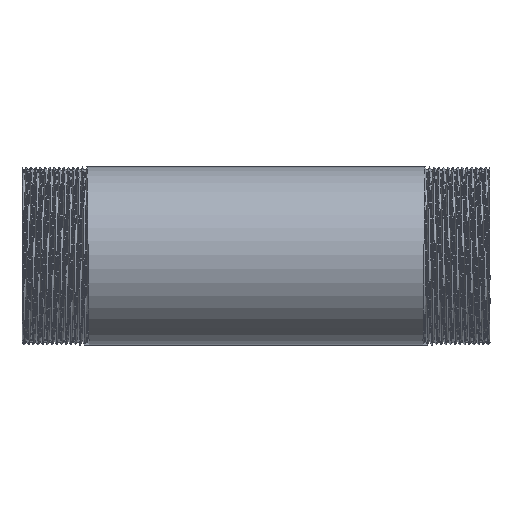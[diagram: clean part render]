
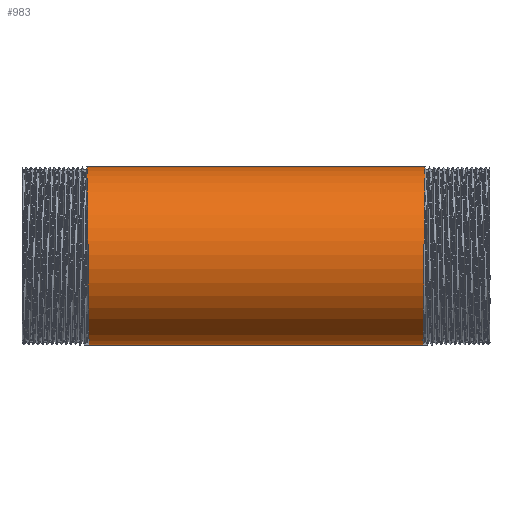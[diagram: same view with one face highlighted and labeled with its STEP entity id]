
A CAD part, front view. The second image highlights one B-rep face of the part: STEP entity #983.
In plain terms, the highlighted cylindrical face has radius 38.05 mm (diameter 76.1 mm), a partial arc.
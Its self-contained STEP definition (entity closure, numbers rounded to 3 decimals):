
#170 = FACE_OUTER_BOUND ( 'NONE', #11001, .T. ) ;
#626 = CARTESIAN_POINT ( 'NONE',  ( 71.25, 0., -38.05 ) ) ;
#983 = ADVANCED_FACE ( 'NONE', ( #170 ), #8936, .T. ) ;
#1074 = VERTEX_POINT ( 'NONE', #6265 ) ;
#1774 = CARTESIAN_POINT ( 'NONE',  ( -71.75, -40.008, 0. ) ) ;
#1873 = EDGE_CURVE ( 'NONE', #1074, #13382, #10864, .T. ) ;
#1874 = VERTEX_POINT ( 'NONE', #12878 ) ;
#1997 = CARTESIAN_POINT ( 'NONE',  ( 71.65, -36.188, -11.758 ) ) ;
#2275 = CARTESIAN_POINT ( 'NONE',  ( 72.15, -12.363, 38.05 ) ) ;
#2860 = CARTESIAN_POINT ( 'NONE',  ( -71.35, -12.363, -38.05 ) ) ;
#3307 =( BOUNDED_CURVE ( )  B_SPLINE_CURVE ( 2, ( #626, #9747, #14037, #14179, #1997, #13096, #6651, #10872, #9608, #2275, #5367 ),
 .UNSPECIFIED., .F., .T. ) 
 B_SPLINE_CURVE_WITH_KNOTS ( ( 3, 2, 2, 2, 2, 3 ),
 ( 0., 0.006, 0.013, 0.019, 0.025, 0.031 ),
 .UNSPECIFIED. ) 
 CURVE ( )  GEOMETRIC_REPRESENTATION_ITEM ( )  RATIONAL_B_SPLINE_CURVE ( ( 1., 0.951, 1., 0.951, 1., 0.951, 1., 0.951, 1., 0.951, 1. ) ) 
 REPRESENTATION_ITEM ( '' )  );
#3862 = CARTESIAN_POINT ( 'NONE',  ( -71.85, -36.188, 11.758 ) ) ;
#3888 = ORIENTED_EDGE ( 'NONE', *, *, #7252, .F. ) ;
#3995 = ORIENTED_EDGE ( 'NONE', *, *, #10401, .T. ) ;
#4003 = CARTESIAN_POINT ( 'NONE',  ( -72.05, -22.365, 30.783 ) ) ;
#4072 = CARTESIAN_POINT ( 'NONE',  ( -71.45, -22.365, -30.783 ) ) ;
#4140 = CARTESIAN_POINT ( 'NONE',  ( -71.55, -32.367, -23.516 ) ) ;
#4616 = LINE ( 'NONE', #6034, #7028 ) ;
#5329 = DIRECTION ( 'NONE',  ( -1., 0., 0. ) ) ;
#5367 = CARTESIAN_POINT ( 'NONE',  ( 72.25, 0., 38.05 ) ) ;
#5550 = VERTEX_POINT ( 'NONE', #9995 ) ;
#5695 = DIRECTION ( 'NONE',  ( -1., 0., 0. ) ) ;
#6034 = CARTESIAN_POINT ( 'NONE',  ( -149.494, 0., 38.05 ) ) ;
#6265 = CARTESIAN_POINT ( 'NONE',  ( -71.25, 0., -38.05 ) ) ;
#6628 = ORIENTED_EDGE ( 'NONE', *, *, #1873, .F. ) ;
#6651 = CARTESIAN_POINT ( 'NONE',  ( 71.85, -36.188, 11.758 ) ) ;
#7028 = VECTOR ( 'NONE', #5695, 1000. ) ;
#7060 = ORIENTED_EDGE ( 'NONE', *, *, #13463, .T. ) ;
#7252 = EDGE_CURVE ( 'NONE', #1874, #1074, #9741, .T. ) ;
#7657 = DIRECTION ( 'NONE',  ( -1., 0., 0. ) ) ;
#8310 = CARTESIAN_POINT ( 'NONE',  ( -71.25, 0., -38.05 ) ) ;
#8351 = DIRECTION ( 'NONE',  ( 0., 0., 1. ) ) ;
#8381 = CARTESIAN_POINT ( 'NONE',  ( -72.15, -12.363, 38.05 ) ) ;
#8936 = CYLINDRICAL_SURFACE ( 'NONE', #13625, 38.05 ) ;
#9159 = VECTOR ( 'NONE', #7657, 1000. ) ;
#9608 = CARTESIAN_POINT ( 'NONE',  ( 72.05, -22.365, 30.783 ) ) ;
#9741 = LINE ( 'NONE', #13161, #9159 ) ;
#9747 = CARTESIAN_POINT ( 'NONE',  ( 71.35, -12.363, -38.05 ) ) ;
#9995 = CARTESIAN_POINT ( 'NONE',  ( 72.25, 0., 38.05 ) ) ;
#10401 = EDGE_CURVE ( 'NONE', #5550, #13382, #4616, .T. ) ;
#10864 =( BOUNDED_CURVE ( )  B_SPLINE_CURVE ( 2, ( #8310, #2860, #4072, #4140, #11583, #1774, #3862, #11794, #4003, #8381, #13673 ),
 .UNSPECIFIED., .F., .F. ) 
 B_SPLINE_CURVE_WITH_KNOTS ( ( 3, 2, 2, 2, 2, 3 ),
 ( 0., 0.006, 0.013, 0.019, 0.025, 0.031 ),
 .UNSPECIFIED. ) 
 CURVE ( )  GEOMETRIC_REPRESENTATION_ITEM ( )  RATIONAL_B_SPLINE_CURVE ( ( 1., 0.951, 1., 0.951, 1., 0.951, 1., 0.951, 1., 0.951, 1. ) ) 
 REPRESENTATION_ITEM ( '' )  );
#10872 = CARTESIAN_POINT ( 'NONE',  ( 71.95, -32.367, 23.516 ) ) ;
#11001 = EDGE_LOOP ( 'NONE', ( #3888, #7060, #3995, #6628 ) ) ;
#11583 = CARTESIAN_POINT ( 'NONE',  ( -71.65, -36.188, -11.758 ) ) ;
#11694 = CARTESIAN_POINT ( 'NONE',  ( -149.494, 0., 0. ) ) ;
#11794 = CARTESIAN_POINT ( 'NONE',  ( -71.95, -32.367, 23.516 ) ) ;
#12878 = CARTESIAN_POINT ( 'NONE',  ( 71.25, 0., -38.05 ) ) ;
#13096 = CARTESIAN_POINT ( 'NONE',  ( 71.75, -40.008, 0. ) ) ;
#13161 = CARTESIAN_POINT ( 'NONE',  ( -149.494, 0., -38.05 ) ) ;
#13382 = VERTEX_POINT ( 'NONE', #13408 ) ;
#13408 = CARTESIAN_POINT ( 'NONE',  ( -72.25, 0., 38.05 ) ) ;
#13463 = EDGE_CURVE ( 'NONE', #1874, #5550, #3307, .T. ) ;
#13625 = AXIS2_PLACEMENT_3D ( 'NONE', #11694, #5329, #8351 ) ;
#13673 = CARTESIAN_POINT ( 'NONE',  ( -72.25, 0., 38.05 ) ) ;
#14037 = CARTESIAN_POINT ( 'NONE',  ( 71.45, -22.365, -30.783 ) ) ;
#14179 = CARTESIAN_POINT ( 'NONE',  ( 71.55, -32.367, -23.516 ) ) ;
